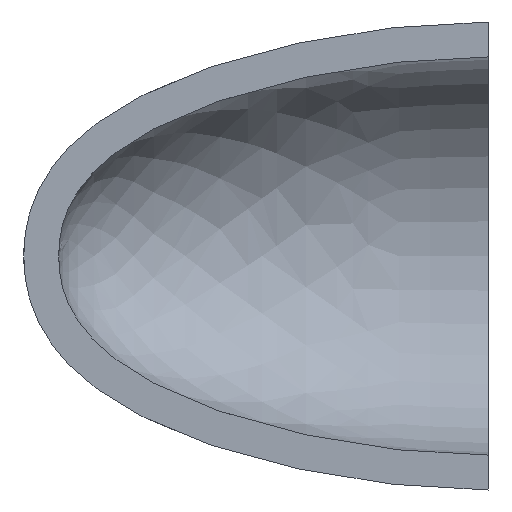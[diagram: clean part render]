
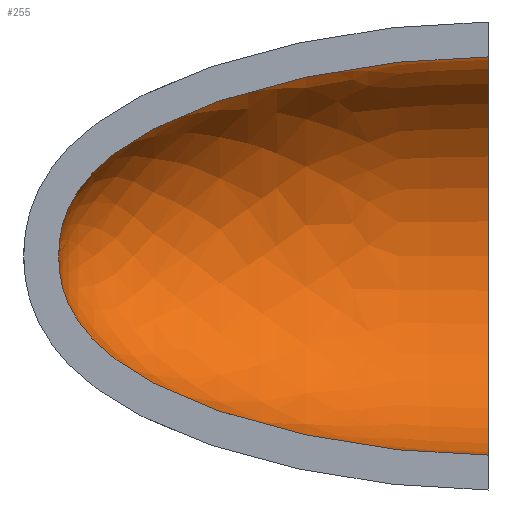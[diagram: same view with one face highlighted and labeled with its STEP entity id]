
A CAD part, left-side view. The second image highlights one B-rep face of the part: STEP entity #255.
In plain terms, the highlighted face is a revolution surface.
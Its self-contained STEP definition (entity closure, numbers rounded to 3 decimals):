
#100=CARTESIAN_POINT('Axis2P3D Location',(0.,0.,0.)) ;
#104=CARTESIAN_POINT('Vertex',(0.,0.,57.)) ;
#106=CARTESIAN_POINT('Vertex',(0.,0.,-57.)) ;
#132=CARTESIAN_POINT('Control Point',(0.,0.,-57.)) ;
#133=CARTESIAN_POINT('Control Point',(0.,2.238,-57.)) ;
#134=CARTESIAN_POINT('Control Point',(0.,4.501,-56.967)) ;
#135=CARTESIAN_POINT('Control Point',(0.,6.789,-56.902)) ;
#136=CARTESIAN_POINT('Control Point',(0.,12.907,-56.647)) ;
#137=CARTESIAN_POINT('Control Point',(0.,19.16,-56.179)) ;
#138=CARTESIAN_POINT('Control Point',(0.,23.096,-55.809)) ;
#139=CARTESIAN_POINT('Control Point',(0.,31.033,-54.914)) ;
#140=CARTESIAN_POINT('Control Point',(0.,39.052,-53.711)) ;
#141=CARTESIAN_POINT('Control Point',(0.,43.075,-53.032)) ;
#142=CARTESIAN_POINT('Control Point',(0.,51.065,-51.528)) ;
#143=CARTESIAN_POINT('Control Point',(0.,59.01,-49.702)) ;
#144=CARTESIAN_POINT('Control Point',(0.,62.933,-48.713)) ;
#145=CARTESIAN_POINT('Control Point',(0.,70.862,-46.52)) ;
#146=CARTESIAN_POINT('Control Point',(0.,78.587,-43.94)) ;
#147=CARTESIAN_POINT('Control Point',(0.,82.453,-42.518)) ;
#148=CARTESIAN_POINT('Control Point',(0.,88.681,-39.98)) ;
#149=CARTESIAN_POINT('Control Point',(0.,94.577,-37.102)) ;
#150=CARTESIAN_POINT('Control Point',(0.,96.841,-35.913)) ;
#151=CARTESIAN_POINT('Control Point',(0.,100.916,-33.595)) ;
#152=CARTESIAN_POINT('Control Point',(0.,104.703,-31.075)) ;
#153=CARTESIAN_POINT('Control Point',(0.,106.384,-29.867)) ;
#154=CARTESIAN_POINT('Control Point',(0.,109.421,-27.494)) ;
#155=CARTESIAN_POINT('Control Point',(0.,112.146,-24.966)) ;
#156=CARTESIAN_POINT('Control Point',(0.,113.357,-23.738)) ;
#157=CARTESIAN_POINT('Control Point',(0.,115.289,-21.581)) ;
#158=CARTESIAN_POINT('Control Point',(0.,116.969,-19.331)) ;
#159=CARTESIAN_POINT('Control Point',(0.,117.622,-18.38)) ;
#160=CARTESIAN_POINT('Control Point',(0.,118.827,-16.462)) ;
#161=CARTESIAN_POINT('Control Point',(0.,119.85,-14.481)) ;
#162=CARTESIAN_POINT('Control Point',(0.,120.312,-13.481)) ;
#163=CARTESIAN_POINT('Control Point',(0.,121.141,-11.461)) ;
#164=CARTESIAN_POINT('Control Point',(0.,121.79,-9.369)) ;
#165=CARTESIAN_POINT('Control Point',(0.,122.069,-8.31)) ;
#166=CARTESIAN_POINT('Control Point',(0.,122.554,-6.074)) ;
#167=CARTESIAN_POINT('Control Point',(0.,122.848,-3.75)) ;
#168=CARTESIAN_POINT('Control Point',(0.,122.95,-2.524)) ;
#169=CARTESIAN_POINT('Control Point',(0.,123.,-1.273)) ;
#170=CARTESIAN_POINT('Control Point',(0.,123.,0.)) ;
#171=CARTESIAN_POINT('Vertex',(0.,123.,0.)) ;
#175=CARTESIAN_POINT('Control Point',(0.,0.,57.)) ;
#176=CARTESIAN_POINT('Control Point',(0.,2.238,57.)) ;
#177=CARTESIAN_POINT('Control Point',(0.,4.501,56.967)) ;
#178=CARTESIAN_POINT('Control Point',(0.,6.789,56.902)) ;
#179=CARTESIAN_POINT('Control Point',(0.,12.907,56.647)) ;
#180=CARTESIAN_POINT('Control Point',(0.,19.16,56.179)) ;
#181=CARTESIAN_POINT('Control Point',(0.,23.096,55.809)) ;
#182=CARTESIAN_POINT('Control Point',(0.,31.033,54.914)) ;
#183=CARTESIAN_POINT('Control Point',(0.,39.052,53.711)) ;
#184=CARTESIAN_POINT('Control Point',(0.,43.075,53.032)) ;
#185=CARTESIAN_POINT('Control Point',(0.,51.065,51.528)) ;
#186=CARTESIAN_POINT('Control Point',(0.,59.01,49.702)) ;
#187=CARTESIAN_POINT('Control Point',(0.,62.933,48.713)) ;
#188=CARTESIAN_POINT('Control Point',(0.,70.862,46.52)) ;
#189=CARTESIAN_POINT('Control Point',(0.,78.587,43.94)) ;
#190=CARTESIAN_POINT('Control Point',(0.,82.453,42.518)) ;
#191=CARTESIAN_POINT('Control Point',(0.,88.681,39.98)) ;
#192=CARTESIAN_POINT('Control Point',(0.,94.577,37.102)) ;
#193=CARTESIAN_POINT('Control Point',(0.,96.841,35.913)) ;
#194=CARTESIAN_POINT('Control Point',(0.,100.916,33.595)) ;
#195=CARTESIAN_POINT('Control Point',(0.,104.703,31.075)) ;
#196=CARTESIAN_POINT('Control Point',(0.,106.384,29.867)) ;
#197=CARTESIAN_POINT('Control Point',(0.,109.421,27.494)) ;
#198=CARTESIAN_POINT('Control Point',(0.,112.146,24.966)) ;
#199=CARTESIAN_POINT('Control Point',(0.,113.357,23.738)) ;
#200=CARTESIAN_POINT('Control Point',(0.,115.289,21.581)) ;
#201=CARTESIAN_POINT('Control Point',(0.,116.969,19.331)) ;
#202=CARTESIAN_POINT('Control Point',(0.,117.622,18.38)) ;
#203=CARTESIAN_POINT('Control Point',(0.,118.827,16.462)) ;
#204=CARTESIAN_POINT('Control Point',(0.,119.85,14.481)) ;
#205=CARTESIAN_POINT('Control Point',(0.,120.312,13.481)) ;
#206=CARTESIAN_POINT('Control Point',(0.,121.141,11.461)) ;
#207=CARTESIAN_POINT('Control Point',(0.,121.79,9.369)) ;
#208=CARTESIAN_POINT('Control Point',(0.,122.069,8.31)) ;
#209=CARTESIAN_POINT('Control Point',(0.,122.554,6.074)) ;
#210=CARTESIAN_POINT('Control Point',(0.,122.848,3.75)) ;
#211=CARTESIAN_POINT('Control Point',(0.,122.95,2.524)) ;
#212=CARTESIAN_POINT('Control Point',(0.,123.,1.273)) ;
#213=CARTESIAN_POINT('Control Point',(0.,123.,0.)) ;
#225=CARTESIAN_POINT('Control Point',(0.,0.,57.)) ;
#226=CARTESIAN_POINT('Control Point',(0.,7.071,57.)) ;
#227=CARTESIAN_POINT('Control Point',(0.,14.637,56.669)) ;
#228=CARTESIAN_POINT('Control Point',(0.,22.681,55.998)) ;
#229=CARTESIAN_POINT('Control Point',(0.,39.447,53.948)) ;
#230=CARTESIAN_POINT('Control Point',(0.,56.806,50.417)) ;
#231=CARTESIAN_POINT('Control Point',(0.,65.443,48.266)) ;
#232=CARTESIAN_POINT('Control Point',(0.,77.956,44.434)) ;
#233=CARTESIAN_POINT('Control Point',(0.,89.228,39.716)) ;
#234=CARTESIAN_POINT('Control Point',(0.,92.815,38.046)) ;
#235=CARTESIAN_POINT('Control Point',(0.,99.585,34.521)) ;
#236=CARTESIAN_POINT('Control Point',(0.,105.437,30.655)) ;
#237=CARTESIAN_POINT('Control Point',(0.,108.107,28.645)) ;
#238=CARTESIAN_POINT('Control Point',(0.,112.89,24.496)) ;
#239=CARTESIAN_POINT('Control Point',(0.,116.55,20.121)) ;
#240=CARTESIAN_POINT('Control Point',(0.,118.094,17.884)) ;
#241=CARTESIAN_POINT('Control Point',(0.,120.652,13.302)) ;
#242=CARTESIAN_POINT('Control Point',(0.,122.194,8.358)) ;
#243=CARTESIAN_POINT('Control Point',(0.,122.724,5.76)) ;
#244=CARTESIAN_POINT('Control Point',(0.,123.,2.982)) ;
#245=CARTESIAN_POINT('Control Point',(0.,123.,0.)) ;
#246=CARTESIAN_POINT('Axis1P Location',(0.,0.,0.)) ;
#101=DIRECTION('Axis2P3D Direction',(0.,1.,0.)) ;
#247=DIRECTION('Axis1P Direction',(0.,1.,0.)) ;
#102=AXIS2_PLACEMENT_3D('Circle Axis2P3D',#100,#101,$) ;
#251=ORIENTED_EDGE('',*,*,#108,.F.) ;
#252=ORIENTED_EDGE('',*,*,#214,.T.) ;
#253=ORIENTED_EDGE('',*,*,#173,.F.) ;
#255=ADVANCED_FACE('PartBody',(#254),#249,.F.) ;
#248=AXIS1_PLACEMENT('Revolution Surface Axis1P',#246,#247) ;
#131=B_SPLINE_CURVE_WITH_KNOTS('',5,(#132,#133,#134,#135,#136,#137,#138,#139,#140,#141,#142,#143,#144,#145,#146,#147,#148,#149,#150,#151,#152,#153,#154,#155,#156,#157,#158,#159,#160,#161,#162,#163,#164,#165,#166,#167,#168,#169,#170),.UNSPECIFIED.,.F.,.U.,(6,3,3,3,3,3,3,3,3,3,3,3,6),(0.,16.247,43.048,69.903,96.389,123.889,141.777,157.127,170.872,180.645,190.265,199.765,209.948),.UNSPECIFIED.) ;
#174=B_SPLINE_CURVE_WITH_KNOTS('',5,(#175,#176,#177,#178,#179,#180,#181,#182,#183,#184,#185,#186,#187,#188,#189,#190,#191,#192,#193,#194,#195,#196,#197,#198,#199,#200,#201,#202,#203,#204,#205,#206,#207,#208,#209,#210,#211,#212,#213),.UNSPECIFIED.,.F.,.U.,(6,3,3,3,3,3,3,3,3,3,3,3,6),(0.,16.247,43.048,69.903,96.389,123.889,141.777,157.127,170.872,180.645,190.265,199.765,209.948),.UNSPECIFIED.) ;
#224=B_SPLINE_CURVE_WITH_KNOTS('',5,(#225,#226,#227,#228,#229,#230,#231,#232,#233,#234,#235,#236,#237,#238,#239,#240,#241,#242,#243,#244,#245),.UNSPECIFIED.,.F.,.U.,(6,3,3,3,3,3,6),(0.,37.231,74.461,93.077,111.692,130.307,148.923),.UNSPECIFIED.) ;
#103=CIRCLE('generated circle',#102,57.) ;
#108=EDGE_CURVE('',#105,#107,#103,.T.) ;
#173=EDGE_CURVE('',#107,#172,#131,.T.) ;
#214=EDGE_CURVE('',#105,#172,#174,.T.) ;
#250=EDGE_LOOP('',(#251,#252,#253)) ;
#254=FACE_OUTER_BOUND('',#250,.T.) ;
#249=SURFACE_OF_REVOLUTION('Surface of Revolution',#224,#248) ;
#105=VERTEX_POINT('',#104) ;
#107=VERTEX_POINT('',#106) ;
#172=VERTEX_POINT('',#171) ;
